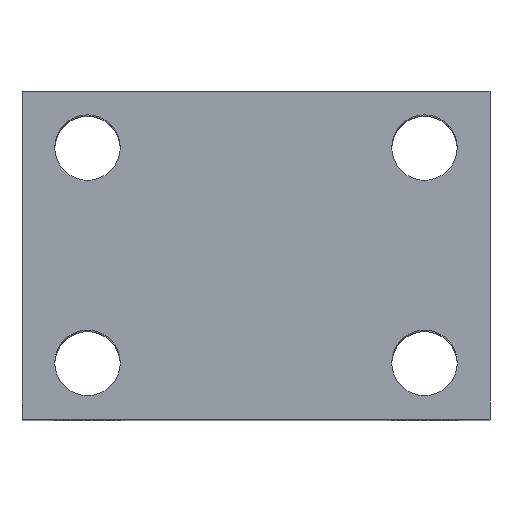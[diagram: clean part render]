
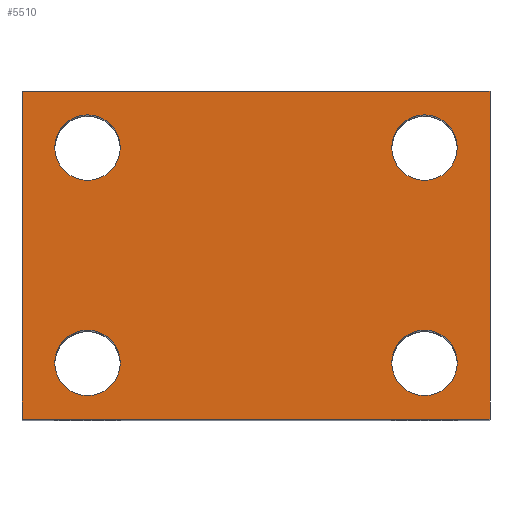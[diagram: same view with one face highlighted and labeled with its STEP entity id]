
A CAD part, top view. The second image highlights one B-rep face of the part: STEP entity #5510.
In plain terms, the highlighted planar face has unit normal (0, 0, 1).
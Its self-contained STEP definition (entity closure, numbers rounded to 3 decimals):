
#168 = CARTESIAN_POINT ( 'NONE',  ( 25., 0., 40. ) ) ;
#297 = EDGE_LOOP ( 'NONE', ( #8065, #12015 ) ) ;
#464 = DIRECTION ( 'NONE',  ( 0., 0., -1. ) ) ;
#519 = CIRCLE ( 'NONE', #847, 3.5 ) ;
#619 = ORIENTED_EDGE ( 'NONE', *, *, #10682, .T. ) ;
#847 = AXIS2_PLACEMENT_3D ( 'NONE', #15308, #6434, #16785 ) ;
#917 = AXIS2_PLACEMENT_3D ( 'NONE', #8717, #19089, #10206 ) ;
#919 = DIRECTION ( 'NONE',  ( -1., 0., 0. ) ) ;
#1540 = CARTESIAN_POINT ( 'NONE',  ( -25., 35., 40. ) ) ;
#1567 = DIRECTION ( 'NONE',  ( 0., 0., -1. ) ) ;
#1573 = DIRECTION ( 'NONE',  ( 0., -1., 0. ) ) ;
#1987 = LINE ( 'NONE', #10701, #9816 ) ;
#2048 = DIRECTION ( 'NONE',  ( 1., 0., 0. ) ) ;
#2406 = CARTESIAN_POINT ( 'NONE',  ( 21.5, 6., 40. ) ) ;
#2474 = CARTESIAN_POINT ( 'NONE',  ( 25., 35., 40. ) ) ;
#3161 = CARTESIAN_POINT ( 'NONE',  ( -21.5, 29., 40. ) ) ;
#3363 = DIRECTION ( 'NONE',  ( 1., 0., 0. ) ) ;
#3553 = DIRECTION ( 'NONE',  ( 0., 0., -1. ) ) ;
#3563 = FACE_BOUND ( 'NONE', #6504, .T. ) ;
#3605 = EDGE_CURVE ( 'NONE', #16368, #5556, #15682, .T. ) ;
#3751 = CIRCLE ( 'NONE', #917, 3.5 ) ;
#3813 = DIRECTION ( 'NONE',  ( 0., 0., -1. ) ) ;
#3928 = VERTEX_POINT ( 'NONE', #13987 ) ;
#4012 = FACE_BOUND ( 'NONE', #16438, .T. ) ;
#4167 = EDGE_CURVE ( 'NONE', #5556, #16368, #6370, .T. ) ;
#4183 = CARTESIAN_POINT ( 'NONE',  ( 14.5, 6., 40. ) ) ;
#4256 = AXIS2_PLACEMENT_3D ( 'NONE', #10401, #1567, #11871 ) ;
#4603 = DIRECTION ( 'NONE',  ( 0., -1., 0. ) ) ;
#4769 = CARTESIAN_POINT ( 'NONE',  ( -18., 6., 40. ) ) ;
#5001 = CARTESIAN_POINT ( 'NONE',  ( -25., 35., 40. ) ) ;
#5056 = EDGE_LOOP ( 'NONE', ( #9300, #11054, #11685, #11753 ) ) ;
#5068 = AXIS2_PLACEMENT_3D ( 'NONE', #12627, #3813, #919 ) ;
#5510 = ADVANCED_FACE ( 'NONE', ( #11367, #18827, #4012, #3563, #7512 ), #17117, .F. ) ;
#5556 = VERTEX_POINT ( 'NONE', #2406 ) ;
#5895 = CIRCLE ( 'NONE', #15058, 3.5 ) ;
#6037 = VECTOR ( 'NONE', #1573, 1000. ) ;
#6226 = CARTESIAN_POINT ( 'NONE',  ( 18., 6., 40. ) ) ;
#6243 = ORIENTED_EDGE ( 'NONE', *, *, #3605, .T. ) ;
#6256 = DIRECTION ( 'NONE',  ( -1., 0., 0. ) ) ;
#6370 = CIRCLE ( 'NONE', #17086, 3.5 ) ;
#6434 = DIRECTION ( 'NONE',  ( 0., 0., -1. ) ) ;
#6504 = EDGE_LOOP ( 'NONE', ( #16903, #619 ) ) ;
#6775 = VERTEX_POINT ( 'NONE', #7062 ) ;
#7062 = CARTESIAN_POINT ( 'NONE',  ( 14.5, 29., 40. ) ) ;
#7512 = FACE_OUTER_BOUND ( 'NONE', #5056, .T. ) ;
#7735 = DIRECTION ( 'NONE',  ( -1., 0., 0. ) ) ;
#7997 = DIRECTION ( 'NONE',  ( 0., 0., -1. ) ) ;
#8065 = ORIENTED_EDGE ( 'NONE', *, *, #13064, .T. ) ;
#8717 = CARTESIAN_POINT ( 'NONE',  ( -18., 29., 40. ) ) ;
#8851 = VERTEX_POINT ( 'NONE', #2474 ) ;
#8986 = EDGE_CURVE ( 'NONE', #18309, #12802, #3751, .T. ) ;
#9298 = CARTESIAN_POINT ( 'NONE',  ( 18., 29., 40. ) ) ;
#9300 = ORIENTED_EDGE ( 'NONE', *, *, #10665, .T. ) ;
#9533 = VERTEX_POINT ( 'NONE', #1540 ) ;
#9652 = EDGE_CURVE ( 'NONE', #3928, #13793, #17844, .T. ) ;
#9717 = CARTESIAN_POINT ( 'NONE',  ( -14.5, 6., 40. ) ) ;
#9816 = VECTOR ( 'NONE', #3363, 1000. ) ;
#9921 = VECTOR ( 'NONE', #4603, 1000. ) ;
#10206 = DIRECTION ( 'NONE',  ( -1., 0., 0. ) ) ;
#10401 = CARTESIAN_POINT ( 'NONE',  ( -18., 29., 40. ) ) ;
#10412 = LINE ( 'NONE', #17775, #6037 ) ;
#10416 = EDGE_LOOP ( 'NONE', ( #18862, #12287 ) ) ;
#10665 = EDGE_CURVE ( 'NONE', #14103, #14430, #1987, .T. ) ;
#10682 = EDGE_CURVE ( 'NONE', #17558, #6775, #5895, .T. ) ;
#10701 = CARTESIAN_POINT ( 'NONE',  ( -25., 0., 40. ) ) ;
#10752 = DIRECTION ( 'NONE',  ( -1., 0., 0. ) ) ;
#10875 = CIRCLE ( 'NONE', #14862, 3.5 ) ;
#11050 = CARTESIAN_POINT ( 'NONE',  ( -14.5, 29., 40. ) ) ;
#11054 = ORIENTED_EDGE ( 'NONE', *, *, #17054, .F. ) ;
#11367 = FACE_BOUND ( 'NONE', #297, .T. ) ;
#11685 = ORIENTED_EDGE ( 'NONE', *, *, #15037, .F. ) ;
#11753 = ORIENTED_EDGE ( 'NONE', *, *, #15992, .T. ) ;
#11871 = DIRECTION ( 'NONE',  ( -1., 0., 0. ) ) ;
#12015 = ORIENTED_EDGE ( 'NONE', *, *, #8986, .T. ) ;
#12287 = ORIENTED_EDGE ( 'NONE', *, *, #15704, .T. ) ;
#12370 = CARTESIAN_POINT ( 'NONE',  ( 18., 6., 40. ) ) ;
#12627 = CARTESIAN_POINT ( 'NONE',  ( -25., 35., 40. ) ) ;
#12802 = VERTEX_POINT ( 'NONE', #3161 ) ;
#13064 = EDGE_CURVE ( 'NONE', #12802, #18309, #17401, .T. ) ;
#13432 = VECTOR ( 'NONE', #2048, 1000. ) ;
#13793 = VERTEX_POINT ( 'NONE', #9717 ) ;
#13870 = DIRECTION ( 'NONE',  ( -1., 0., 0. ) ) ;
#13987 = CARTESIAN_POINT ( 'NONE',  ( -21.5, 6., 40. ) ) ;
#14103 = VERTEX_POINT ( 'NONE', #17712 ) ;
#14430 = VERTEX_POINT ( 'NONE', #168 ) ;
#14497 = AXIS2_PLACEMENT_3D ( 'NONE', #12370, #3553, #13870 ) ;
#14862 = AXIS2_PLACEMENT_3D ( 'NONE', #16823, #7997, #18326 ) ;
#15037 = EDGE_CURVE ( 'NONE', #9533, #8851, #17847, .T. ) ;
#15058 = AXIS2_PLACEMENT_3D ( 'NONE', #9298, #464, #10752 ) ;
#15141 = DIRECTION ( 'NONE',  ( 0., 0., -1. ) ) ;
#15238 = ORIENTED_EDGE ( 'NONE', *, *, #4167, .T. ) ;
#15308 = CARTESIAN_POINT ( 'NONE',  ( -18., 6., 40. ) ) ;
#15682 = CIRCLE ( 'NONE', #14497, 3.5 ) ;
#15704 = EDGE_CURVE ( 'NONE', #13793, #3928, #519, .T. ) ;
#15992 = EDGE_CURVE ( 'NONE', #9533, #14103, #10412, .T. ) ;
#16368 = VERTEX_POINT ( 'NONE', #4183 ) ;
#16438 = EDGE_LOOP ( 'NONE', ( #6243, #15238 ) ) ;
#16574 = DIRECTION ( 'NONE',  ( 0., 0., -1. ) ) ;
#16770 = AXIS2_PLACEMENT_3D ( 'NONE', #4769, #15141, #6256 ) ;
#16785 = DIRECTION ( 'NONE',  ( -1., 0., 0. ) ) ;
#16823 = CARTESIAN_POINT ( 'NONE',  ( 18., 29., 40. ) ) ;
#16903 = ORIENTED_EDGE ( 'NONE', *, *, #18719, .T. ) ;
#17054 = EDGE_CURVE ( 'NONE', #8851, #14430, #17795, .T. ) ;
#17086 = AXIS2_PLACEMENT_3D ( 'NONE', #6226, #16574, #7735 ) ;
#17117 = PLANE ( 'NONE',  #5068 ) ;
#17401 = CIRCLE ( 'NONE', #4256, 3.5 ) ;
#17558 = VERTEX_POINT ( 'NONE', #17913 ) ;
#17712 = CARTESIAN_POINT ( 'NONE',  ( -25., 0., 40. ) ) ;
#17775 = CARTESIAN_POINT ( 'NONE',  ( -25., 35., 40. ) ) ;
#17795 = LINE ( 'NONE', #17868, #9921 ) ;
#17844 = CIRCLE ( 'NONE', #16770, 3.5 ) ;
#17847 = LINE ( 'NONE', #5001, #13432 ) ;
#17868 = CARTESIAN_POINT ( 'NONE',  ( 25., 35., 40. ) ) ;
#17913 = CARTESIAN_POINT ( 'NONE',  ( 21.5, 29., 40. ) ) ;
#18309 = VERTEX_POINT ( 'NONE', #11050 ) ;
#18326 = DIRECTION ( 'NONE',  ( -1., 0., 0. ) ) ;
#18719 = EDGE_CURVE ( 'NONE', #6775, #17558, #10875, .T. ) ;
#18827 = FACE_BOUND ( 'NONE', #10416, .T. ) ;
#18862 = ORIENTED_EDGE ( 'NONE', *, *, #9652, .T. ) ;
#19089 = DIRECTION ( 'NONE',  ( 0., 0., -1. ) ) ;
